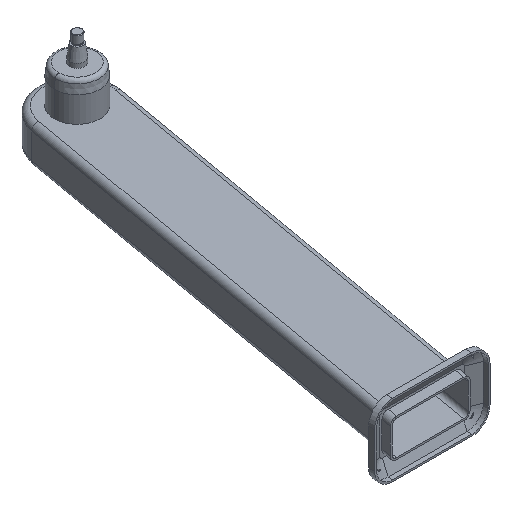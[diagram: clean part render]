
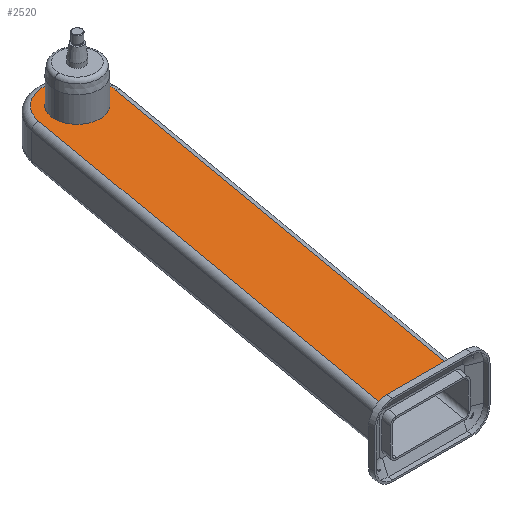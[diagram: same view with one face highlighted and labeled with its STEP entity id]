
A CAD part, isometric view. The second image highlights one B-rep face of the part: STEP entity #2520.
In plain terms, the highlighted planar face has unit normal (0, 0, 1).
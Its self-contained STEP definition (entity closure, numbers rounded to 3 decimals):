
#8 = ORIENTED_EDGE ( 'NONE', *, *, #3037, .T. ) ;
#9 = PLANE ( 'NONE',  #487 ) ;
#41 = CARTESIAN_POINT ( 'NONE',  ( 54.164, -9.551, 31.25 ) ) ;
#59 = CARTESIAN_POINT ( 'NONE',  ( 54.164, -9.551, 31.25 ) ) ;
#60 = DIRECTION ( 'NONE',  ( 1., 0., 0. ) ) ;
#135 = CARTESIAN_POINT ( 'NONE',  ( 38., 0., 31.25 ) ) ;
#238 = CIRCLE ( 'NONE', #617, 55. ) ;
#290 = EDGE_CURVE ( 'NONE', #1741, #581, #238, .T. ) ;
#294 = FACE_OUTER_BOUND ( 'NONE', #3055, .T. ) ;
#326 = ORIENTED_EDGE ( 'NONE', *, *, #290, .T. ) ;
#359 = VERTEX_POINT ( 'NONE', #135 ) ;
#366 = VECTOR ( 'NONE', #60, 1000. ) ;
#487 = AXIS2_PLACEMENT_3D ( 'NONE', #2298, #792, #2563 ) ;
#581 = VERTEX_POINT ( 'NONE', #750 ) ;
#617 = AXIS2_PLACEMENT_3D ( 'NONE', #2667, #1136, #2919 ) ;
#731 = VECTOR ( 'NONE', #1113, 1000. ) ;
#744 = CARTESIAN_POINT ( 'NONE',  ( 0., 0., 31.25 ) ) ;
#750 = CARTESIAN_POINT ( 'NONE',  ( -54.164, 9.551, 31.25 ) ) ;
#792 = DIRECTION ( 'NONE',  ( 0., 0., 1. ) ) ;
#842 = ORIENTED_EDGE ( 'NONE', *, *, #1548, .T. ) ;
#858 = VERTEX_POINT ( 'NONE', #2763 ) ;
#874 = CARTESIAN_POINT ( 'NONE',  ( -181.347, -711.736, 31.25 ) ) ;
#969 = LINE ( 'NONE', #1092, #366 ) ;
#998 = DIRECTION ( 'NONE',  ( 1., 0., 0. ) ) ;
#1044 = AXIS2_PLACEMENT_3D ( 'NONE', #2570, #1051, #2820 ) ;
#1051 = DIRECTION ( 'NONE',  ( 0., 0., 1. ) ) ;
#1078 = EDGE_CURVE ( 'NONE', #1509, #1558, #969, .T. ) ;
#1084 = CIRCLE ( 'NONE', #2053, 38. ) ;
#1090 = DIRECTION ( 'NONE',  ( 0., 0., 1. ) ) ;
#1092 = CARTESIAN_POINT ( 'NONE',  ( 0., -690., 31.25 ) ) ;
#1113 = DIRECTION ( 'NONE',  ( -0.174, -0.985, 0. ) ) ;
#1136 = DIRECTION ( 'NONE',  ( 0., 0., 1. ) ) ;
#1167 = VECTOR ( 'NONE', #1596, 1000. ) ;
#1247 = LINE ( 'NONE', #59, #1167 ) ;
#1441 = CIRCLE ( 'NONE', #3056, 38. ) ;
#1465 = ORIENTED_EDGE ( 'NONE', *, *, #2331, .T. ) ;
#1509 = VERTEX_POINT ( 'NONE', #2075 ) ;
#1548 = EDGE_CURVE ( 'NONE', #1558, #2585, #1247, .T. ) ;
#1558 = VERTEX_POINT ( 'NONE', #3129 ) ;
#1582 = EDGE_LOOP ( 'NONE', ( #3150, #2888 ) ) ;
#1596 = DIRECTION ( 'NONE',  ( 0.174, 0.985, 0. ) ) ;
#1741 = VERTEX_POINT ( 'NONE', #2168 ) ;
#2053 = AXIS2_PLACEMENT_3D ( 'NONE', #2616, #1090, #2864 ) ;
#2075 = CARTESIAN_POINT ( 'NONE',  ( -177.514, -690., 31.25 ) ) ;
#2089 = EDGE_CURVE ( 'NONE', #359, #858, #1441, .T. ) ;
#2168 = CARTESIAN_POINT ( 'NONE',  ( 55., 0., 31.25 ) ) ;
#2298 = CARTESIAN_POINT ( 'NONE',  ( 0., 0., 31.25 ) ) ;
#2331 = EDGE_CURVE ( 'NONE', #581, #1509, #3266, .T. ) ;
#2508 = DIRECTION ( 'NONE',  ( 0., 0., 1. ) ) ;
#2520 = ADVANCED_FACE ( 'NONE', ( #294, #2998 ), #9, .T. ) ;
#2563 = DIRECTION ( 'NONE',  ( 1., 0., 0. ) ) ;
#2570 = CARTESIAN_POINT ( 'NONE',  ( 0., 0., 31.25 ) ) ;
#2585 = VERTEX_POINT ( 'NONE', #41 ) ;
#2595 = CIRCLE ( 'NONE', #1044, 55. ) ;
#2616 = CARTESIAN_POINT ( 'NONE',  ( 0., 0., 31.25 ) ) ;
#2667 = CARTESIAN_POINT ( 'NONE',  ( 0., 0., 31.25 ) ) ;
#2763 = CARTESIAN_POINT ( 'NONE',  ( -38., 0., 31.25 ) ) ;
#2820 = DIRECTION ( 'NONE',  ( 1., 0., 0. ) ) ;
#2864 = DIRECTION ( 'NONE',  ( 1., 0., 0. ) ) ;
#2888 = ORIENTED_EDGE ( 'NONE', *, *, #3127, .F. ) ;
#2919 = DIRECTION ( 'NONE',  ( 1., 0., 0. ) ) ;
#2920 = ORIENTED_EDGE ( 'NONE', *, *, #1078, .T. ) ;
#2998 = FACE_BOUND ( 'NONE', #1582, .T. ) ;
#3037 = EDGE_CURVE ( 'NONE', #2585, #1741, #2595, .T. ) ;
#3055 = EDGE_LOOP ( 'NONE', ( #842, #8, #326, #1465, #2920 ) ) ;
#3056 = AXIS2_PLACEMENT_3D ( 'NONE', #744, #2508, #998 ) ;
#3127 = EDGE_CURVE ( 'NONE', #858, #359, #1084, .T. ) ;
#3129 = CARTESIAN_POINT ( 'NONE',  ( -65.817, -690., 31.25 ) ) ;
#3150 = ORIENTED_EDGE ( 'NONE', *, *, #2089, .F. ) ;
#3266 = LINE ( 'NONE', #874, #731 ) ;
